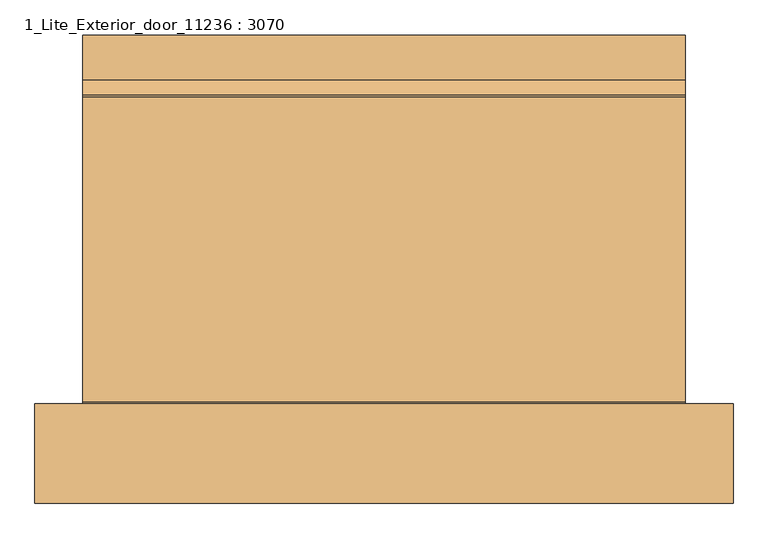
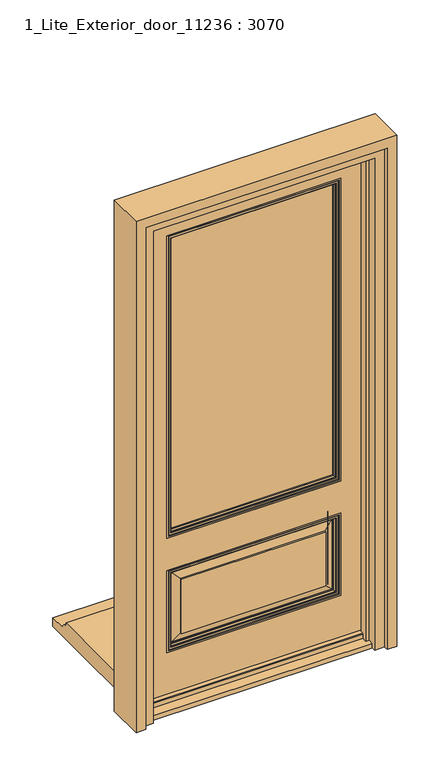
"""IFC4 building model written with IfcOpenShell, lengths in millimetres: door geometry, 1_Lite_Exterior_door_11236 : 3070."""

from ifc_helpers import new_model, si_unit, point, frame, frame_2d, origin, place, context, project, spatial, polyline, circle_curve, ellipse_curve, trimmed, segment, composite_curve, outline, extrude, faceted_brep, source, transform, mapped, element, save
from ifc_brep_helpers import plane_surface, cylinder_surface, advanced_brep


def door_1_lite_exterior_door_11236_3070_60b90e85(model_context):
    return source(origin(), model_context, "Body", "SolidModel", [
        advanced_brep(
        [(355.6, 12.7, 723.9), (355.6, 76.2, 723.9), (355.6, 76.2, 2032.0), (355.6, 12.7, 2032.0), (349.25, 17.74112, 730.25), (349.25, 12.7, 730.25), (349.25, 12.7, 2025.65), (349.25, 17.74112, 2025.65), (346.9560106, 15.4471305, 732.5439894), (346.9560106, 15.4471305, 2023.3560106), (338.7694125, 18.2331323, 740.7305875), (338.7694125, 15.4471305, 740.7305875), (338.7694125, 15.4471305, 2015.1694125), (338.7694125, 18.2331323, 2015.1694125), (335.932591, 18.9956227, 743.567409), (337.7298548, 18.2331323, 741.7701452), (337.7298548, 18.2331323, 2014.1298548), (335.932591, 18.9956227, 2012.332591), (332.9205864, 25.9688031, 746.5794136), (332.9205864, 25.9688031, 2009.3205864), (331.1191455, 30.1625, 748.3808545), (331.1191455, 25.9688031, 748.3808545), (331.1191455, 25.9688031, 2007.5191455), (331.1191455, 30.1625, 2007.5191455), (349.25, 58.7375, 730.25), (349.25, 30.1625, 730.25), (349.25, 30.1625, 2025.65), (349.25, 58.7375, 2025.65), (331.3790349, 63.1711196, 748.1209651), (331.3790349, 58.7375, 748.1209651), (331.3790349, 58.7375, 2007.7790349), (331.3790349, 63.1711196, 2007.7790349), (332.2428928, 63.8640585, 747.2571072), (332.2428928, 63.8640585, 2008.6428928), (334.1792523, 68.8820693, 745.3207477), (333.1653174, 63.8640585, 746.3346826), (333.1653174, 63.8640585, 2009.5653174), (334.1792523, 68.8820693, 2010.5792523), (337.7518172, 72.169021, 741.7481828), (337.7518172, 72.169021, 2014.1518172), (338.7401292, 76.2, 740.7598708), (338.7401292, 72.169021, 740.7598708), (338.7401292, 72.169021, 2015.1401292), (338.7401292, 76.2, 2015.1401292), (-355.6, 76.2, 2032.0), (-355.6, 12.7, 2032.0), (-349.25, 12.7, 2025.65), (-349.25, 17.74112, 2025.65), (-346.9560106, 15.4471305, 2023.3560106), (-338.7694125, 15.4471305, 2015.1694125), (-338.7694125, 18.2331323, 2015.1694125), (-337.7298548, 18.2331323, 2014.1298548), (-335.932591, 18.9956227, 2012.332591), (-332.9205864, 25.9688031, 2009.3205864), (-331.1191455, 25.9688031, 2007.5191455), (-331.1191455, 30.1625, 2007.5191455), (-349.25, 30.1625, 2025.65), (-349.25, 58.7375, 2025.65), (-331.3790349, 58.7375, 2007.7790349), (-331.3790349, 63.1711196, 2007.7790349), (-332.2428928, 63.8640585, 2008.6428928), (-333.1653174, 63.8640585, 2009.5653174), (-334.1792523, 68.8820693, 2010.5792523), (-337.7518172, 72.169021, 2014.1518172), (-338.7401292, 72.169021, 2015.1401292), (-338.7401292, 76.2, 2015.1401292), (-355.6, 76.2, 723.9), (-355.6, 12.7, 723.9), (-349.25, 12.7, 730.25), (-349.25, 17.74112, 730.25), (-346.9560106, 15.4471305, 732.5439894), (-338.7694125, 15.4471305, 740.7305875), (-338.7694125, 18.2331323, 740.7305875), (-337.7298548, 18.2331323, 741.7701452), (-335.932591, 18.9956227, 743.567409), (-332.9205864, 25.9688031, 746.5794136), (-331.1191455, 25.9688031, 748.3808545), (-331.1191455, 30.1625, 748.3808545), (-349.25, 30.1625, 730.25), (-349.25, 58.7375, 730.25), (-331.3790349, 58.7375, 748.1209651), (-331.3790349, 63.1711196, 748.1209651), (-332.2428928, 63.8640585, 747.2571072), (-333.1653174, 63.8640585, 746.3346826), (-334.1792523, 68.8820693, 745.3207477), (-337.7518172, 72.169021, 741.7481828), (-338.7401292, 72.169021, 740.7598708), (-338.7401292, 76.2, 740.7598708)],
        [
            (0, 1),
            (1, 2),
            (2, 3),
            (3, 0),
            (4, 5),
            (5, 6),
            (6, 7),
            (7, 4),
            (8, 4),
            (7, 9),
            (9, 8),
            (10, 11),
            (11, 12),
            (12, 13),
            (13, 10),
            (14, 15, ellipse_curve(frame((337.7264752, 20.724574, 741.7735248), z_axis=(0.7071067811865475, 0.0, 0.7071067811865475), x_axis=(0.7071067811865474, 0.0, -0.7071067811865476)), 3.5234339, 2.491444)),
            (15, 16),
            (16, 17, ellipse_curve(frame((337.7264752, 20.724574, 2014.1264752), z_axis=(0.7071067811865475, 0.0, -0.7071067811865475), x_axis=(-0.7071067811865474, 0.0, -0.7071067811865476)), 3.5234339, 2.491444)),
            (17, 14),
            (18, 14, ellipse_curve(frame((343.4741522, 26.3902292, 736.0258478), z_axis=(0.7071067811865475, 0.0, 0.7071067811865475), x_axis=(0.7071067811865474, 0.0, -0.7071067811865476)), 14.9368906, 10.5619766)),
            (17, 19, ellipse_curve(frame((343.4741522, 26.3902292, 2019.8741522), z_axis=(0.7071067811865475, 0.0, -0.7071067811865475), x_axis=(-0.7071067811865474, 0.0, -0.7071067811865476)), 14.9368906, 10.5619766)),
            (19, 18),
            (20, 21),
            (21, 22),
            (22, 23),
            (23, 20),
            (24, 25),
            (25, 26),
            (26, 27),
            (27, 24),
            (28, 29),
            (29, 30),
            (30, 31),
            (31, 28),
            (32, 28, ellipse_curve(frame((332.2149829, 63.0139154, 747.2850171), z_axis=(0.7071067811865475, 0.0, 0.7071067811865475), x_axis=(0.7071067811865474, 0.0, -0.7071067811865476)), 1.2029316, 0.8506011)),
            (31, 33, ellipse_curve(frame((332.2149829, 63.0139154, 2008.6149829), z_axis=(0.7071067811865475, 0.0, -0.7071067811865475), x_axis=(-0.7071067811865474, 0.0, -0.7071067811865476)), 1.2029316, 0.8506011)),
            (33, 32),
            (34, 35, ellipse_curve(frame((345.7149258, 63.9397383, 733.7850742), z_axis=(0.7071067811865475, 0.0, 0.7071067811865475), x_axis=(0.7071067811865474, 0.0, -0.7071067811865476)), 17.7481492, 12.5498367)),
            (35, 36),
            (36, 37, ellipse_curve(frame((345.7149258, 63.9397383, 2022.1149258), z_axis=(0.7071067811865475, 0.0, -0.7071067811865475), x_axis=(-0.7071067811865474, 0.0, -0.7071067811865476)), 17.7481492, 12.5498367)),
            (37, 34),
            (38, 34, ellipse_curve(frame((339.7868204, 66.3722163, 739.7131796), z_axis=(0.7071067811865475, 0.0, 0.7071067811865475), x_axis=(0.7071067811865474, 0.0, -0.7071067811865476)), 8.6884041, 6.1436294)),
            (37, 39, ellipse_curve(frame((339.7868204, 66.3722163, 2016.1868204), z_axis=(0.7071067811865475, 0.0, -0.7071067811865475), x_axis=(-0.7071067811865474, 0.0, -0.7071067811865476)), 8.6884041, 6.1436294)),
            (39, 38),
            (40, 41),
            (41, 42),
            (42, 43),
            (43, 40),
            (2, 44),
            (44, 45),
            (45, 3),
            (6, 46),
            (46, 47),
            (47, 7),
            (47, 48),
            (48, 9),
            (12, 49),
            (49, 50),
            (50, 13),
            (16, 51),
            (51, 52, ellipse_curve(frame((-337.7264752, 20.724574, 2014.1264752), z_axis=(0.7071067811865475, 0.0, 0.7071067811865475), x_axis=(0.7071067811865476, 0.0, -0.7071067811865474)), 3.5234339, 2.491444)),
            (52, 17),
            (52, 53, ellipse_curve(frame((-343.4741522, 26.3902292, 2019.8741522), z_axis=(0.7071067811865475, 0.0, 0.7071067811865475), x_axis=(0.7071067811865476, 0.0, -0.7071067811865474)), 14.9368906, 10.5619766)),
            (53, 19),
            (22, 54),
            (54, 55),
            (55, 23),
            (26, 56),
            (56, 57),
            (57, 27),
            (30, 58),
            (58, 59),
            (59, 31),
            (59, 60, ellipse_curve(frame((-332.2149829, 63.0139154, 2008.6149829), z_axis=(0.7071067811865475, 0.0, 0.7071067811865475), x_axis=(0.7071067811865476, 0.0, -0.7071067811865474)), 1.2029316, 0.8506011)),
            (60, 33),
            (36, 61),
            (61, 62, ellipse_curve(frame((-345.7149258, 63.9397383, 2022.1149258), z_axis=(0.7071067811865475, 0.0, 0.7071067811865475), x_axis=(0.7071067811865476, 0.0, -0.7071067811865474)), 17.7481492, 12.5498367)),
            (62, 37),
            (62, 63, ellipse_curve(frame((-339.7868204, 66.3722163, 2016.1868204), z_axis=(0.7071067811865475, 0.0, 0.7071067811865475), x_axis=(0.7071067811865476, 0.0, -0.7071067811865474)), 8.6884041, 6.1436294)),
            (63, 39),
            (42, 64),
            (64, 65),
            (65, 43),
            (44, 66),
            (66, 67),
            (67, 45),
            (46, 68),
            (68, 69),
            (69, 47),
            (69, 70),
            (70, 48),
            (49, 71),
            (71, 72),
            (72, 50),
            (51, 73),
            (73, 74, ellipse_curve(frame((-337.7264752, 20.724574, 741.7735248), z_axis=(-0.7071067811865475, 0.0, 0.7071067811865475), x_axis=(0.7071067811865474, 0.0, 0.7071067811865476)), 3.5234339, 2.491444)),
            (74, 52),
            (74, 75, ellipse_curve(frame((-343.4741522, 26.3902292, 736.0258478), z_axis=(-0.7071067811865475, 0.0, 0.7071067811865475), x_axis=(0.7071067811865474, 0.0, 0.7071067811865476)), 14.9368906, 10.5619766)),
            (75, 53),
            (54, 76),
            (76, 77),
            (77, 55),
            (56, 78),
            (78, 79),
            (79, 57),
            (58, 80),
            (80, 81),
            (81, 59),
            (81, 82, ellipse_curve(frame((-332.2149829, 63.0139154, 747.2850171), z_axis=(-0.7071067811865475, 0.0, 0.7071067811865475), x_axis=(0.7071067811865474, 0.0, 0.7071067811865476)), 1.2029316, 0.8506011)),
            (82, 60),
            (61, 83),
            (83, 84, ellipse_curve(frame((-345.7149258, 63.9397383, 733.7850742), z_axis=(-0.7071067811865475, 0.0, 0.7071067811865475), x_axis=(0.7071067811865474, 0.0, 0.7071067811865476)), 17.7481492, 12.5498367)),
            (84, 62),
            (84, 85, ellipse_curve(frame((-339.7868204, 66.3722163, 739.7131796), z_axis=(-0.7071067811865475, 0.0, 0.7071067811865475), x_axis=(0.7071067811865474, 0.0, 0.7071067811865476)), 8.6884041, 6.1436294)),
            (85, 63),
            (64, 86),
            (86, 87),
            (87, 65),
            (1, 66),
            (87, 40),
            (0, 67),
            (5, 68),
            (4, 69),
            (8, 70),
            (11, 71),
            (10, 72),
            (15, 73),
            (14, 74),
            (18, 75),
            (21, 76),
            (20, 77),
            (25, 78),
            (24, 79),
            (29, 80),
            (28, 81),
            (32, 82),
            (35, 83),
            (34, 84),
            (38, 85),
            (41, 86),
        ],
        [
            plane_surface(frame((355.6, 76.2, 723.9), z_axis=(1.0, 0.0, 0.0), x_axis=(0.0, 0.0, 1.0))),
            plane_surface(frame((349.25, 12.7, 730.25), z_axis=(-1.0, 0.0, 0.0), x_axis=(0.0, 0.0, 1.0))),
            plane_surface(frame((349.25, 17.74112, 730.25), z_axis=(0.7071067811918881, -0.707106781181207, 0.0), x_axis=(0.0, 0.0, 1.0))),
            plane_surface(frame((338.7694125, 15.4471305, 740.7305875), z_axis=(-1.0, 0.0, 0.0), x_axis=(0.0, 0.0, 1.0))),
            cylinder_surface(frame((337.7264752, 20.724574, 723.9), z_axis=(0.0, 0.0, -1.0), x_axis=(0.0, -1.0, 0.0)), 2.491444),
            cylinder_surface(frame((343.4741522, 26.3902292, 723.9), z_axis=(0.0, 0.0, -1.0), x_axis=(0.0, -1.0, 0.0)), 10.5619766),
            plane_surface(frame((331.1191455, 25.9688031, 748.3808545), z_axis=(-1.0, 0.0, 0.0), x_axis=(0.0, 0.0, 1.0))),
            plane_surface(frame((349.25, 30.1625, 730.25), z_axis=(-1.0, 0.0, 0.0), x_axis=(0.0, 0.0, 1.0))),
            plane_surface(frame((331.3790349, 58.7375, 748.1209651), z_axis=(-1.0, 0.0, 0.0), x_axis=(0.0, 0.0, 1.0))),
            cylinder_surface(frame((332.2149829, 63.0139154, 723.9), z_axis=(0.0, 0.0, -1.0), x_axis=(0.0, -1.0, 0.0)), 0.8506011),
            cylinder_surface(frame((345.7149258, 63.9397383, 723.9), z_axis=(0.0, 0.0, -1.0), x_axis=(0.0, -1.0, 0.0)), 12.5498367),
            cylinder_surface(frame((339.7868204, 66.3722163, 723.9), z_axis=(0.0, 0.0, -1.0), x_axis=(0.0, -1.0, 0.0)), 6.1436294),
            plane_surface(frame((338.7401292, 72.169021, 740.7598708), z_axis=(-1.0, 0.0, 0.0), x_axis=(0.0, 0.0, 1.0))),
            plane_surface(frame((355.6, 76.2, 2032.0), z_axis=(0.0, 0.0, 1.0), x_axis=(-1.0, 0.0, 0.0))),
            plane_surface(frame((349.25, 12.7, 2025.65), z_axis=(0.0, 0.0, -1.0), x_axis=(-1.0, 0.0, 0.0))),
            plane_surface(frame((349.25, 17.74112, 2025.65), z_axis=(0.0, -0.707106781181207, 0.7071067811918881), x_axis=(-1.0, 0.0, 0.0))),
            plane_surface(frame((338.7694125, 15.4471305, 2015.1694125), z_axis=(0.0, 0.0, -1.0), x_axis=(-1.0, 0.0, 0.0))),
            cylinder_surface(frame((355.6, 20.724574, 2014.1264752), z_axis=(1.0, 0.0, 0.0), x_axis=(0.0, -1.0, 0.0)), 2.491444),
            cylinder_surface(frame((355.6, 26.3902292, 2019.8741522), z_axis=(1.0, 0.0, 0.0), x_axis=(0.0, -1.0, 0.0)), 10.5619766),
            plane_surface(frame((331.1191455, 25.9688031, 2007.5191455), z_axis=(0.0, 0.0, -1.0), x_axis=(-1.0, 0.0, 0.0))),
            plane_surface(frame((349.25, 30.1625, 2025.65), z_axis=(0.0, 0.0, -1.0), x_axis=(-1.0, 0.0, 0.0))),
            plane_surface(frame((331.3790349, 58.7375, 2007.7790349), z_axis=(0.0, 0.0, -1.0), x_axis=(-1.0, 0.0, 0.0))),
            cylinder_surface(frame((355.6, 63.0139154, 2008.6149829), z_axis=(1.0, 0.0, 0.0), x_axis=(0.0, -1.0, 0.0)), 0.8506011),
            cylinder_surface(frame((355.6, 63.9397383, 2022.1149258), z_axis=(1.0, 0.0, 0.0), x_axis=(0.0, -1.0, 0.0)), 12.5498367),
            cylinder_surface(frame((355.6, 66.3722163, 2016.1868204), z_axis=(1.0, 0.0, 0.0), x_axis=(0.0, -1.0, 0.0)), 6.1436294),
            plane_surface(frame((338.7401292, 72.169021, 2015.1401292), z_axis=(0.0, 0.0, -1.0), x_axis=(-1.0, 0.0, 0.0))),
            plane_surface(frame((-355.6, 76.2, 2032.0), z_axis=(-1.0, 0.0, 0.0), x_axis=(0.0, 0.0, -1.0))),
            plane_surface(frame((-349.25, 12.7, 2025.65), z_axis=(1.0, 0.0, 0.0), x_axis=(0.0, 0.0, -1.0))),
            plane_surface(frame((-349.25, 17.74112, 2025.65), z_axis=(-0.7071067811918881, -0.707106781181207, 0.0), x_axis=(0.0, 0.0, -1.0))),
            plane_surface(frame((-338.7694125, 15.4471305, 2015.1694125), z_axis=(1.0, 0.0, 0.0), x_axis=(0.0, 0.0, -1.0))),
            cylinder_surface(frame((-337.7264752, 20.724574, 2032.0), z_axis=(0.0, 0.0, 1.0), x_axis=(0.0, -1.0, 0.0)), 2.491444),
            cylinder_surface(frame((-343.4741522, 26.3902292, 2032.0), z_axis=(0.0, 0.0, 1.0), x_axis=(0.0, -1.0, 0.0)), 10.5619766),
            plane_surface(frame((-331.1191455, 25.9688031, 2007.5191455), z_axis=(1.0, 0.0, 0.0), x_axis=(0.0, 0.0, -1.0))),
            plane_surface(frame((-349.25, 30.1625, 2025.65), z_axis=(1.0, 0.0, 0.0), x_axis=(0.0, 0.0, -1.0))),
            plane_surface(frame((-331.3790349, 58.7375, 2007.7790349), z_axis=(1.0, 0.0, 0.0), x_axis=(0.0, 0.0, -1.0))),
            cylinder_surface(frame((-332.2149829, 63.0139154, 2032.0), z_axis=(0.0, 0.0, 1.0), x_axis=(0.0, -1.0, 0.0)), 0.8506011),
            cylinder_surface(frame((-345.7149258, 63.9397383, 2032.0), z_axis=(0.0, 0.0, 1.0), x_axis=(0.0, -1.0, 0.0)), 12.5498367),
            cylinder_surface(frame((-339.7868204, 66.3722163, 2032.0), z_axis=(0.0, 0.0, 1.0), x_axis=(0.0, -1.0, 0.0)), 6.1436294),
            plane_surface(frame((-338.7401292, 72.169021, 2015.1401292), z_axis=(1.0, 0.0, 0.0), x_axis=(0.0, 0.0, -1.0))),
            plane_surface(frame((-338.7401292, 76.2, 740.7598708), z_axis=(0.0, 1.0, 0.0), x_axis=(1.0, 0.0, 0.0))),
            plane_surface(frame((-355.6, 76.2, 723.9), z_axis=(0.0, 0.0, -1.0), x_axis=(1.0, 0.0, 0.0))),
            plane_surface(frame((-355.6, 12.7, 723.9), z_axis=(0.0, -1.0, 0.0), x_axis=(1.0, 0.0, 0.0))),
            plane_surface(frame((-349.25, 12.7, 730.25), z_axis=(0.0, 0.0, 1.0), x_axis=(1.0, 0.0, 0.0))),
            plane_surface(frame((-349.25, 17.74112, 730.25), z_axis=(0.0, -0.707106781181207, -0.7071067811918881), x_axis=(1.0, 0.0, 0.0))),
            plane_surface(frame((-346.9560106, 15.4471305, 732.5439894), z_axis=(0.0, -1.0, 0.0), x_axis=(1.0, 0.0, 0.0))),
            plane_surface(frame((-338.7694125, 15.4471305, 740.7305875), z_axis=(0.0, 0.0, 1.0), x_axis=(1.0, 0.0, 0.0))),
            plane_surface(frame((-338.7694125, 18.2331323, 740.7305875), z_axis=(0.0, -1.0, 0.0), x_axis=(1.0, 0.0, 0.0))),
            cylinder_surface(frame((-355.6, 20.724574, 741.7735248), z_axis=(-1.0, 0.0, 0.0), x_axis=(0.0, -1.0, 0.0)), 2.491444),
            cylinder_surface(frame((-355.6, 26.3902292, 736.0258478), z_axis=(-1.0, 0.0, 0.0), x_axis=(0.0, -1.0, 0.0)), 10.5619766),
            plane_surface(frame((-332.9205864, 25.9688031, 746.5794136), z_axis=(0.0, -1.0, 0.0), x_axis=(1.0, 0.0, 0.0))),
            plane_surface(frame((-331.1191455, 25.9688031, 748.3808545), z_axis=(0.0, 0.0, 1.0), x_axis=(1.0, 0.0, 0.0))),
            plane_surface(frame((-331.1191455, 30.1625, 748.3808545), z_axis=(0.0, 1.0, 0.0), x_axis=(1.0, 0.0, 0.0))),
            plane_surface(frame((-349.25, 30.1625, 730.25), z_axis=(0.0, 0.0, 1.0), x_axis=(1.0, 0.0, 0.0))),
            plane_surface(frame((-349.25, 58.7375, 730.25), z_axis=(0.0, -1.0, 0.0), x_axis=(1.0, 0.0, 0.0))),
            plane_surface(frame((-331.3790349, 58.7375, 748.1209651), z_axis=(0.0, 0.0, 1.0), x_axis=(1.0, 0.0, 0.0))),
            cylinder_surface(frame((-355.6, 63.0139154, 747.2850171), z_axis=(-1.0, 0.0, 0.0), x_axis=(0.0, -1.0, 0.0)), 0.8506011),
            plane_surface(frame((-332.2428928, 63.8640585, 747.2571072), z_axis=(0.0, 1.0, 0.0), x_axis=(1.0, 0.0, 0.0))),
            cylinder_surface(frame((-355.6, 63.9397383, 733.7850742), z_axis=(-1.0, 0.0, 0.0), x_axis=(0.0, -1.0, 0.0)), 12.5498367),
            cylinder_surface(frame((-355.6, 66.3722163, 739.7131796), z_axis=(-1.0, 0.0, 0.0), x_axis=(0.0, -1.0, 0.0)), 6.1436294),
            plane_surface(frame((-337.7518172, 72.169021, 741.7481828), z_axis=(0.0, 1.0, 0.0), x_axis=(1.0, 0.0, 0.0))),
            plane_surface(frame((-338.7401292, 72.169021, 740.7598708), z_axis=(0.0, 0.0, 1.0), x_axis=(1.0, 0.0, 0.0))),
        ],
        [
            (0, [[1, 2, 3, 4]]),
            (1, [[5, 6, 7, 8]]),
            (2, [[9, -8, 10, 11]]),
            (3, [[12, 13, 14, 15]]),
            (4, [[16, 17, 18, 19]]),
            (5, [[20, -19, 21, 22]]),
            (6, [[23, 24, 25, 26]]),
            (7, [[27, 28, 29, 30]]),
            (8, [[31, 32, 33, 34]]),
            (9, [[35, -34, 36, 37]]),
            (10, [[38, 39, 40, 41]]),
            (11, [[42, -41, 43, 44]]),
            (12, [[45, 46, 47, 48]]),
            (13, [[-3, 49, 50, 51]]),
            (14, [[-7, 52, 53, 54]]),
            (15, [[-10, -54, 55, 56]]),
            (16, [[-14, 57, 58, 59]]),
            (17, [[-18, 60, 61, 62]]),
            (18, [[-21, -62, 63, 64]]),
            (19, [[-25, 65, 66, 67]]),
            (20, [[-29, 68, 69, 70]]),
            (21, [[-33, 71, 72, 73]]),
            (22, [[-36, -73, 74, 75]]),
            (23, [[-40, 76, 77, 78]]),
            (24, [[-43, -78, 79, 80]]),
            (25, [[-47, 81, 82, 83]]),
            (26, [[-50, 84, 85, 86]]),
            (27, [[-53, 87, 88, 89]]),
            (28, [[-55, -89, 90, 91]]),
            (29, [[-58, 92, 93, 94]]),
            (30, [[-61, 95, 96, 97]]),
            (31, [[-63, -97, 98, 99]]),
            (32, [[-66, 100, 101, 102]]),
            (33, [[-69, 103, 104, 105]]),
            (34, [[-72, 106, 107, 108]]),
            (35, [[-74, -108, 109, 110]]),
            (36, [[-77, 111, 112, 113]]),
            (37, [[-79, -113, 114, 115]]),
            (38, [[-82, 116, 117, 118]]),
            (39, [[119, -84, -49, -2], [-83, -118, 120, -48]]),
            (40, [[-85, -119, -1, 121]]),
            (41, [[-51, -86, -121, -4], [122, -87, -52, -6]]),
            (42, [[-88, -122, -5, 123]]),
            (43, [[-90, -123, -9, 124]]),
            (44, [[-56, -91, -124, -11], [125, -92, -57, -13]]),
            (45, [[-93, -125, -12, 126]]),
            (46, [[-59, -94, -126, -15], [127, -95, -60, -17]]),
            (47, [[-96, -127, -16, 128]]),
            (48, [[-98, -128, -20, 129]]),
            (49, [[-64, -99, -129, -22], [130, -100, -65, -24]]),
            (50, [[-101, -130, -23, 131]]),
            (51, [[132, -103, -68, -28], [-67, -102, -131, -26]]),
            (52, [[-104, -132, -27, 133]]),
            (53, [[-70, -105, -133, -30], [134, -106, -71, -32]]),
            (54, [[-107, -134, -31, 135]]),
            (55, [[-109, -135, -35, 136]]),
            (56, [[137, -111, -76, -39], [-75, -110, -136, -37]]),
            (57, [[-112, -137, -38, 138]]),
            (58, [[-114, -138, -42, 139]]),
            (59, [[140, -116, -81, -46], [-80, -115, -139, -44]]),
            (60, [[-117, -140, -45, -120]]),
        ],
    ),
        advanced_brep(
        [(-295.275, 21.7305567, 288.925), (-295.275, 68.5309484, 288.925), (-295.275, 68.5309484, 523.875), (-295.275, 21.7305567, 523.875), (-328.2530406, 30.8447038, 255.9469594), (-328.2530406, 30.8447038, 556.8530406), (-331.1191455, 26.6510069, 253.0808545), (-331.1191455, 30.8447038, 253.0808545), (-331.1191455, 30.8447038, 559.7191455), (-331.1191455, 26.6510069, 559.7191455), (-335.932591, 19.6778265, 248.267409), (-332.9205864, 26.6510069, 251.2794136), (-332.9205864, 26.6510069, 561.5205864), (-335.932591, 19.6778265, 564.532591), (-337.7298547, 18.9153362, 246.4701453), (-337.7298547, 18.9153362, 566.3298547), (-338.7694125, 16.1293344, 245.4305875), (-338.7694125, 18.9153362, 245.4305875), (-338.7694125, 18.9153362, 567.3694125), (-338.7694125, 16.1293344, 567.3694125), (-349.25, 18.4233238, 234.95), (-346.9560106, 16.1293344, 237.2439894), (-346.9560106, 16.1293344, 575.5560106), (-349.25, 18.4233238, 577.85), (-349.25, 12.7, 234.95), (-349.25, 12.7, 577.85), (-355.6, 76.2, 228.6), (-355.6, 12.7, 228.6), (-355.6, 12.7, 584.2), (-355.6, 76.2, 584.2), (-338.7401292, 72.8512248, 245.4598708), (-338.7401292, 76.2, 245.4598708), (-338.7401292, 76.2, 567.3401292), (-338.7401292, 72.8512248, 567.3401292), (-334.1792523, 69.5642731, 250.0207477), (-337.7518172, 72.8512248, 246.4481828), (-337.7518172, 72.8512248, 566.3518172), (-334.1792523, 69.5642731, 562.7792523), (-333.1653174, 64.5462623, 251.0346826), (-333.1653174, 64.5462623, 561.7653174), (-331.3790349, 63.8533234, 252.8209651), (-332.2428928, 64.5462623, 251.9571072), (-332.2428928, 64.5462623, 560.8428928), (-331.3790349, 63.8533234, 559.9790349), (-331.3790349, 59.4197038, 252.8209651), (-331.3790349, 59.4197038, 559.9790349), (-328.7179133, 59.4197038, 255.4820867), (-328.7179133, 59.4197038, 557.3179133), (295.275, 68.5309484, 523.875), (295.275, 21.7305567, 523.875), (328.2530406, 30.8447038, 556.8530406), (331.1191455, 30.8447038, 559.7191455), (331.1191455, 26.6510069, 559.7191455), (332.9205864, 26.6510069, 561.5205864), (335.932591, 19.6778265, 564.532591), (337.7298547, 18.9153362, 566.3298547), (338.7694125, 18.9153362, 567.3694125), (338.7694125, 16.1293344, 567.3694125), (346.9560106, 16.1293344, 575.5560106), (349.25, 18.4233238, 577.85), (349.25, 12.7, 577.85), (355.6, 12.7, 584.2), (355.6, 76.2, 584.2), (338.7401292, 76.2, 567.3401292), (338.7401292, 72.8512248, 567.3401292), (337.7518172, 72.8512248, 566.3518172), (334.1792523, 69.5642731, 562.7792523), (333.1653174, 64.5462623, 561.7653174), (332.2428928, 64.5462623, 560.8428928), (331.3790349, 63.8533234, 559.9790349), (331.3790349, 59.4197038, 559.9790349), (328.7179133, 59.4197038, 557.3179133), (295.275, 68.5309484, 288.925), (295.275, 21.7305567, 288.925), (328.2530406, 30.8447038, 255.9469594), (331.1191455, 30.8447038, 253.0808545), (331.1191455, 26.6510069, 253.0808545), (332.9205864, 26.6510069, 251.2794136), (335.932591, 19.6778265, 248.267409), (337.7298547, 18.9153362, 246.4701453), (338.7694125, 18.9153362, 245.4305875), (338.7694125, 16.1293344, 245.4305875), (346.9560106, 16.1293344, 237.2439894), (349.25, 18.4233238, 234.95), (349.25, 12.7, 234.95), (355.6, 12.7, 228.6), (355.6, 76.2, 228.6), (338.7401292, 76.2, 245.4598708), (338.7401292, 72.8512248, 245.4598708), (337.7518172, 72.8512248, 246.4481828), (334.1792523, 69.5642731, 250.0207477), (333.1653174, 64.5462623, 251.0346826), (332.2428928, 64.5462623, 251.9571072), (331.3790349, 63.8533234, 252.8209651), (331.3790349, 59.4197038, 252.8209651), (328.7179133, 59.4197038, 255.4820867)],
        [
            (0, 1),
            (1, 2),
            (2, 3),
            (3, 0),
            (4, 0),
            (3, 5),
            (5, 4),
            (6, 7),
            (7, 8),
            (8, 9),
            (9, 6),
            (10, 11, ellipse_curve(frame((-343.4741522, 27.072433, 240.7258478), z_axis=(-0.7071067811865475, 0.0, 0.7071067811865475), x_axis=(-0.7071067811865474, 0.0, -0.7071067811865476)), 14.9368906, 10.5619766)),
            (11, 12),
            (12, 13, ellipse_curve(frame((-343.4741522, 27.072433, 572.0741522), z_axis=(-0.7071067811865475, 0.0, -0.7071067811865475), x_axis=(0.7071067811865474, 0.0, -0.7071067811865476)), 14.9368906, 10.5619766)),
            (13, 10),
            (14, 10, ellipse_curve(frame((-337.7264752, 21.4067779, 246.4735248), z_axis=(-0.7071067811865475, 0.0, 0.7071067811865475), x_axis=(-0.7071067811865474, 0.0, -0.7071067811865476)), 3.5234339, 2.491444)),
            (13, 15, ellipse_curve(frame((-337.7264752, 21.4067779, 566.3264752), z_axis=(-0.7071067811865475, 0.0, -0.7071067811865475), x_axis=(0.7071067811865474, 0.0, -0.7071067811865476)), 3.5234339, 2.491444)),
            (15, 14),
            (16, 17),
            (17, 18),
            (18, 19),
            (19, 16),
            (20, 21),
            (21, 22),
            (22, 23),
            (23, 20),
            (24, 20),
            (23, 25),
            (25, 24),
            (26, 27),
            (27, 28),
            (28, 29),
            (29, 26),
            (30, 31),
            (31, 32),
            (32, 33),
            (33, 30),
            (34, 35, ellipse_curve(frame((-339.7868204, 67.0544201, 244.4131796), z_axis=(-0.7071067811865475, 0.0, 0.7071067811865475), x_axis=(-0.7071067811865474, 0.0, -0.7071067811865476)), 8.6884041, 6.1436294)),
            (35, 36),
            (36, 37, ellipse_curve(frame((-339.7868204, 67.0544201, 568.3868204), z_axis=(-0.7071067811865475, 0.0, -0.7071067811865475), x_axis=(0.7071067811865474, 0.0, -0.7071067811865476)), 8.6884041, 6.1436294)),
            (37, 34),
            (38, 34, ellipse_curve(frame((-345.7149258, 64.6219421, 238.4850742), z_axis=(-0.7071067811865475, 0.0, 0.7071067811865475), x_axis=(-0.7071067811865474, 0.0, -0.7071067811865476)), 17.7481492, 12.5498367)),
            (37, 39, ellipse_curve(frame((-345.7149258, 64.6219421, 574.3149258), z_axis=(-0.7071067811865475, 0.0, -0.7071067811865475), x_axis=(0.7071067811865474, 0.0, -0.7071067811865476)), 17.7481492, 12.5498367)),
            (39, 38),
            (40, 41, ellipse_curve(frame((-332.2149829, 63.6961192, 251.9850171), z_axis=(-0.7071067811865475, 0.0, 0.7071067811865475), x_axis=(-0.7071067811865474, 0.0, -0.7071067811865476)), 1.2029316, 0.8506011)),
            (41, 42),
            (42, 43, ellipse_curve(frame((-332.2149829, 63.6961192, 560.8149829), z_axis=(-0.7071067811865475, 0.0, -0.7071067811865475), x_axis=(0.7071067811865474, 0.0, -0.7071067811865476)), 1.2029316, 0.8506011)),
            (43, 40),
            (44, 40),
            (43, 45),
            (45, 44),
            (1, 46),
            (46, 47),
            (47, 2),
            (2, 48),
            (48, 49),
            (49, 3),
            (49, 50),
            (50, 5),
            (8, 51),
            (51, 52),
            (52, 9),
            (12, 53),
            (53, 54, ellipse_curve(frame((343.4741522, 27.072433, 572.0741522), z_axis=(-0.7071067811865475, 0.0, 0.7071067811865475), x_axis=(-0.7071067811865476, 0.0, -0.7071067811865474)), 14.9368906, 10.5619766)),
            (54, 13),
            (54, 55, ellipse_curve(frame((337.7264752, 21.4067779, 566.3264752), z_axis=(-0.7071067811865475, 0.0, 0.7071067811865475), x_axis=(-0.7071067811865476, 0.0, -0.7071067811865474)), 3.5234339, 2.491444)),
            (55, 15),
            (18, 56),
            (56, 57),
            (57, 19),
            (22, 58),
            (58, 59),
            (59, 23),
            (59, 60),
            (60, 25),
            (28, 61),
            (61, 62),
            (62, 29),
            (32, 63),
            (63, 64),
            (64, 33),
            (36, 65),
            (65, 66, ellipse_curve(frame((339.7868204, 67.0544201, 568.3868204), z_axis=(-0.7071067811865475, 0.0, 0.7071067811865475), x_axis=(-0.7071067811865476, 0.0, -0.7071067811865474)), 8.6884041, 6.1436294)),
            (66, 37),
            (66, 67, ellipse_curve(frame((345.7149258, 64.6219421, 574.3149258), z_axis=(-0.7071067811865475, 0.0, 0.7071067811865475), x_axis=(-0.7071067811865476, 0.0, -0.7071067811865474)), 17.7481492, 12.5498367)),
            (67, 39),
            (42, 68),
            (68, 69, ellipse_curve(frame((332.2149829, 63.6961192, 560.8149829), z_axis=(-0.7071067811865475, 0.0, 0.7071067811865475), x_axis=(-0.7071067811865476, 0.0, -0.7071067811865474)), 1.2029316, 0.8506011)),
            (69, 43),
            (69, 70),
            (70, 45),
            (47, 71),
            (71, 48),
            (48, 72),
            (72, 73),
            (73, 49),
            (73, 74),
            (74, 50),
            (51, 75),
            (75, 76),
            (76, 52),
            (53, 77),
            (77, 78, ellipse_curve(frame((343.4741522, 27.072433, 240.7258478), z_axis=(0.7071067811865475, 0.0, 0.7071067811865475), x_axis=(-0.7071067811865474, 0.0, 0.7071067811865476)), 14.9368906, 10.5619766)),
            (78, 54),
            (78, 79, ellipse_curve(frame((337.7264752, 21.4067779, 246.4735248), z_axis=(0.7071067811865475, 0.0, 0.7071067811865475), x_axis=(-0.7071067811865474, 0.0, 0.7071067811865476)), 3.5234339, 2.491444)),
            (79, 55),
            (56, 80),
            (80, 81),
            (81, 57),
            (58, 82),
            (82, 83),
            (83, 59),
            (83, 84),
            (84, 60),
            (61, 85),
            (85, 86),
            (86, 62),
            (63, 87),
            (87, 88),
            (88, 64),
            (65, 89),
            (89, 90, ellipse_curve(frame((339.7868204, 67.0544201, 244.4131796), z_axis=(0.7071067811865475, 0.0, 0.7071067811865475), x_axis=(-0.7071067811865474, 0.0, 0.7071067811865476)), 8.6884041, 6.1436294)),
            (90, 66),
            (90, 91, ellipse_curve(frame((345.7149258, 64.6219421, 238.4850742), z_axis=(0.7071067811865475, 0.0, 0.7071067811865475), x_axis=(-0.7071067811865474, 0.0, 0.7071067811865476)), 17.7481492, 12.5498367)),
            (91, 67),
            (68, 92),
            (92, 93, ellipse_curve(frame((332.2149829, 63.6961192, 251.9850171), z_axis=(0.7071067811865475, 0.0, 0.7071067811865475), x_axis=(-0.7071067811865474, 0.0, 0.7071067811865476)), 1.2029316, 0.8506011)),
            (93, 69),
            (93, 94),
            (94, 70),
            (71, 95),
            (95, 72),
            (72, 1),
            (0, 73),
            (4, 74),
            (7, 75),
            (6, 76),
            (11, 77),
            (10, 78),
            (14, 79),
            (17, 80),
            (16, 81),
            (21, 82),
            (20, 83),
            (24, 84),
            (27, 85),
            (26, 86),
            (31, 87),
            (30, 88),
            (35, 89),
            (34, 90),
            (38, 91),
            (41, 92),
            (40, 93),
            (44, 94),
            (46, 95),
        ],
        [
            plane_surface(frame((-295.275, 68.5309484, 288.925), z_axis=(1.0, 0.0, 0.0), x_axis=(0.0, 0.0, 1.0))),
            plane_surface(frame((-295.275, 21.7305567, 288.925), z_axis=(-0.2663840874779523, -0.9638669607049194, 0.0), x_axis=(0.0, 0.0, 1.0))),
            plane_surface(frame((-331.1191455, 30.8447038, 253.0808545), z_axis=(1.0, 0.0, 0.0), x_axis=(0.0, 0.0, 1.0))),
            cylinder_surface(frame((-343.4741522, 27.072433, 228.6), z_axis=(0.0, 0.0, -1.0), x_axis=(-1.0, 0.0, 0.0)), 10.5619766),
            cylinder_surface(frame((-337.7264752, 21.4067779, 228.6), z_axis=(0.0, 0.0, -1.0), x_axis=(-1.0, 0.0, 0.0)), 2.491444),
            plane_surface(frame((-338.7694125, 18.9153362, 245.4305875), z_axis=(1.0, 0.0, 0.0), x_axis=(0.0, 0.0, 1.0))),
            plane_surface(frame((-346.9560106, 16.1293344, 237.2439894), z_axis=(-0.7071067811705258, -0.7071067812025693, 0.0), x_axis=(0.0, 0.0, 1.0))),
            plane_surface(frame((-349.25, 18.4233238, 234.95), z_axis=(1.0, 0.0, 0.0), x_axis=(0.0, 0.0, 1.0))),
            plane_surface(frame((-355.6, 12.7, 228.6), z_axis=(-1.0, 0.0, 0.0), x_axis=(0.0, 0.0, 1.0))),
            plane_surface(frame((-338.7401292, 76.2, 245.4598708), z_axis=(1.0, 0.0, 0.0), x_axis=(0.0, 0.0, 1.0))),
            cylinder_surface(frame((-339.7868204, 67.0544201, 228.6), z_axis=(0.0, 0.0, -1.0), x_axis=(-1.0, 0.0, 0.0)), 6.1436294),
            cylinder_surface(frame((-345.7149258, 64.6219421, 228.6), z_axis=(0.0, 0.0, -1.0), x_axis=(-1.0, 0.0, 0.0)), 12.5498367),
            cylinder_surface(frame((-332.2149829, 63.6961192, 228.6), z_axis=(0.0, 0.0, -1.0), x_axis=(-1.0, 0.0, 0.0)), 0.8506011),
            plane_surface(frame((-331.3790349, 63.8533234, 252.8209651), z_axis=(1.0, 0.0, 0.0), x_axis=(0.0, 0.0, 1.0))),
            plane_surface(frame((-328.7179133, 59.4197038, 255.4820867), z_axis=(-0.2628609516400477, 0.9648337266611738, 0.0), x_axis=(0.0, 0.0, 1.0))),
            plane_surface(frame((-295.275, 68.5309484, 523.875), z_axis=(0.0, 0.0, -1.0), x_axis=(1.0, 0.0, 0.0))),
            plane_surface(frame((-295.275, 21.7305567, 523.875), z_axis=(0.0, -0.9638669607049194, 0.2663840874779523), x_axis=(1.0, 0.0, 0.0))),
            plane_surface(frame((-331.1191455, 30.8447038, 559.7191455), z_axis=(0.0, 0.0, -1.0), x_axis=(1.0, 0.0, 0.0))),
            cylinder_surface(frame((-355.6, 27.072433, 572.0741522), z_axis=(-1.0, 0.0, 0.0), x_axis=(0.0, 0.0, 1.0)), 10.5619766),
            cylinder_surface(frame((-355.6, 21.4067779, 566.3264752), z_axis=(-1.0, 0.0, 0.0), x_axis=(0.0, 0.0, 1.0)), 2.491444),
            plane_surface(frame((-338.7694125, 18.9153362, 567.3694125), z_axis=(0.0, 0.0, -1.0), x_axis=(1.0, 0.0, 0.0))),
            plane_surface(frame((-346.9560106, 16.1293344, 575.5560106), z_axis=(0.0, -0.7071067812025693, 0.7071067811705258), x_axis=(1.0, 0.0, 0.0))),
            plane_surface(frame((-349.25, 18.4233238, 577.85), z_axis=(0.0, 0.0, -1.0), x_axis=(1.0, 0.0, 0.0))),
            plane_surface(frame((-355.6, 12.7, 584.2), z_axis=(0.0, 0.0, 1.0), x_axis=(1.0, 0.0, 0.0))),
            plane_surface(frame((-338.7401292, 76.2, 567.3401292), z_axis=(0.0, 0.0, -1.0), x_axis=(1.0, 0.0, 0.0))),
            cylinder_surface(frame((-355.6, 67.0544201, 568.3868204), z_axis=(-1.0, 0.0, 0.0), x_axis=(0.0, 0.0, 1.0)), 6.1436294),
            cylinder_surface(frame((-355.6, 64.6219421, 574.3149258), z_axis=(-1.0, 0.0, 0.0), x_axis=(0.0, 0.0, 1.0)), 12.5498367),
            cylinder_surface(frame((-355.6, 63.6961192, 560.8149829), z_axis=(-1.0, 0.0, 0.0), x_axis=(0.0, 0.0, 1.0)), 0.8506011),
            plane_surface(frame((-331.3790349, 63.8533234, 559.9790349), z_axis=(0.0, 0.0, -1.0), x_axis=(1.0, 0.0, 0.0))),
            plane_surface(frame((-328.7179133, 59.4197038, 557.3179133), z_axis=(0.0, 0.9648337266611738, 0.2628609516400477), x_axis=(1.0, 0.0, 0.0))),
            plane_surface(frame((295.275, 68.5309484, 523.875), z_axis=(-1.0, 0.0, 0.0), x_axis=(0.0, 0.0, -1.0))),
            plane_surface(frame((295.275, 21.7305567, 523.875), z_axis=(0.2663840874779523, -0.9638669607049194, 0.0), x_axis=(0.0, 0.0, -1.0))),
            plane_surface(frame((331.1191455, 30.8447038, 559.7191455), z_axis=(-1.0, 0.0, 0.0), x_axis=(0.0, 0.0, -1.0))),
            cylinder_surface(frame((343.4741522, 27.072433, 584.2), z_axis=(0.0, 0.0, 1.0), x_axis=(1.0, 0.0, 0.0)), 10.5619766),
            cylinder_surface(frame((337.7264752, 21.4067779, 584.2), z_axis=(0.0, 0.0, 1.0), x_axis=(1.0, 0.0, 0.0)), 2.491444),
            plane_surface(frame((338.7694125, 18.9153362, 567.3694125), z_axis=(-1.0, 0.0, 0.0), x_axis=(0.0, 0.0, -1.0))),
            plane_surface(frame((346.9560106, 16.1293344, 575.5560106), z_axis=(0.7071067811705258, -0.7071067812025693, 0.0), x_axis=(0.0, 0.0, -1.0))),
            plane_surface(frame((349.25, 18.4233238, 577.85), z_axis=(-1.0, 0.0, 0.0), x_axis=(0.0, 0.0, -1.0))),
            plane_surface(frame((355.6, 12.7, 584.2), z_axis=(1.0, 0.0, 0.0), x_axis=(0.0, 0.0, -1.0))),
            plane_surface(frame((338.7401292, 76.2, 567.3401292), z_axis=(-1.0, 0.0, 0.0), x_axis=(0.0, 0.0, -1.0))),
            cylinder_surface(frame((339.7868204, 67.0544201, 584.2), z_axis=(0.0, 0.0, 1.0), x_axis=(1.0, 0.0, 0.0)), 6.1436294),
            cylinder_surface(frame((345.7149258, 64.6219421, 584.2), z_axis=(0.0, 0.0, 1.0), x_axis=(1.0, 0.0, 0.0)), 12.5498367),
            cylinder_surface(frame((332.2149829, 63.6961192, 584.2), z_axis=(0.0, 0.0, 1.0), x_axis=(1.0, 0.0, 0.0)), 0.8506011),
            plane_surface(frame((331.3790349, 63.8533234, 559.9790349), z_axis=(-1.0, 0.0, 0.0), x_axis=(0.0, 0.0, -1.0))),
            plane_surface(frame((328.7179133, 59.4197038, 557.3179133), z_axis=(0.2628609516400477, 0.9648337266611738, 0.0), x_axis=(0.0, 0.0, -1.0))),
            plane_surface(frame((295.275, 68.5309484, 288.925), z_axis=(0.0, 0.0, 1.0), x_axis=(-1.0, 0.0, 0.0))),
            plane_surface(frame((295.275, 21.7305567, 288.925), z_axis=(0.0, -0.9638669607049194, -0.2663840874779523), x_axis=(-1.0, 0.0, 0.0))),
            plane_surface(frame((328.2530406, 30.8447038, 255.9469594), z_axis=(0.0, -1.0, 0.0), x_axis=(-1.0, 0.0, 0.0))),
            plane_surface(frame((331.1191455, 30.8447038, 253.0808545), z_axis=(0.0, 0.0, 1.0), x_axis=(-1.0, 0.0, 0.0))),
            plane_surface(frame((331.1191455, 26.6510069, 253.0808545), z_axis=(0.0, -1.0, 0.0), x_axis=(-1.0, 0.0, 0.0))),
            cylinder_surface(frame((355.6, 27.072433, 240.7258478), z_axis=(1.0, 0.0, 0.0), x_axis=(0.0, 0.0, -1.0)), 10.5619766),
            cylinder_surface(frame((355.6, 21.4067779, 246.4735248), z_axis=(1.0, 0.0, 0.0), x_axis=(0.0, 0.0, -1.0)), 2.491444),
            plane_surface(frame((337.7298547, 18.9153362, 246.4701453), z_axis=(0.0, -1.0, 0.0), x_axis=(-1.0, 0.0, 0.0))),
            plane_surface(frame((338.7694125, 18.9153362, 245.4305875), z_axis=(0.0, 0.0, 1.0), x_axis=(-1.0, 0.0, 0.0))),
            plane_surface(frame((338.7694125, 16.1293344, 245.4305875), z_axis=(0.0, -1.0, 0.0), x_axis=(-1.0, 0.0, 0.0))),
            plane_surface(frame((346.9560106, 16.1293344, 237.2439894), z_axis=(0.0, -0.7071067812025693, -0.7071067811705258), x_axis=(-1.0, 0.0, 0.0))),
            plane_surface(frame((349.25, 18.4233238, 234.95), z_axis=(0.0, 0.0, 1.0), x_axis=(-1.0, 0.0, 0.0))),
            plane_surface(frame((349.25, 12.7, 234.95), z_axis=(0.0, -1.0, 0.0), x_axis=(-1.0, 0.0, 0.0))),
            plane_surface(frame((355.6, 12.7, 228.6), z_axis=(0.0, 0.0, -1.0), x_axis=(-1.0, 0.0, 0.0))),
            plane_surface(frame((355.6, 76.2, 228.6), z_axis=(0.0, 1.0, 0.0), x_axis=(-1.0, 0.0, 0.0))),
            plane_surface(frame((338.7401292, 76.2, 245.4598708), z_axis=(0.0, 0.0, 1.0), x_axis=(-1.0, 0.0, 0.0))),
            plane_surface(frame((338.7401292, 72.8512248, 245.4598708), z_axis=(0.0, 1.0, 0.0), x_axis=(-1.0, 0.0, 0.0))),
            cylinder_surface(frame((355.6, 67.0544201, 244.4131796), z_axis=(1.0, 0.0, 0.0), x_axis=(0.0, 0.0, -1.0)), 6.1436294),
            cylinder_surface(frame((355.6, 64.6219421, 238.4850742), z_axis=(1.0, 0.0, 0.0), x_axis=(0.0, 0.0, -1.0)), 12.5498367),
            plane_surface(frame((333.1653174, 64.5462623, 251.0346826), z_axis=(0.0, 1.0, 0.0), x_axis=(-1.0, 0.0, 0.0))),
            cylinder_surface(frame((355.6, 63.6961192, 251.9850171), z_axis=(1.0, 0.0, 0.0), x_axis=(0.0, 0.0, -1.0)), 0.8506011),
            plane_surface(frame((331.3790349, 63.8533234, 252.8209651), z_axis=(0.0, 0.0, 1.0), x_axis=(-1.0, 0.0, 0.0))),
            plane_surface(frame((331.3790349, 59.4197038, 252.8209651), z_axis=(0.0, 1.0, 0.0), x_axis=(-1.0, 0.0, 0.0))),
            plane_surface(frame((328.7179133, 59.4197038, 255.4820867), z_axis=(0.0, 0.9648337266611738, -0.2628609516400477), x_axis=(-1.0, 0.0, 0.0))),
        ],
        [
            (0, [[1, 2, 3, 4]]),
            (1, [[5, -4, 6, 7]]),
            (2, [[8, 9, 10, 11]]),
            (3, [[12, 13, 14, 15]]),
            (4, [[16, -15, 17, 18]]),
            (5, [[19, 20, 21, 22]]),
            (6, [[23, 24, 25, 26]]),
            (7, [[27, -26, 28, 29]]),
            (8, [[30, 31, 32, 33]]),
            (9, [[34, 35, 36, 37]]),
            (10, [[38, 39, 40, 41]]),
            (11, [[42, -41, 43, 44]]),
            (12, [[45, 46, 47, 48]]),
            (13, [[49, -48, 50, 51]]),
            (14, [[52, 53, 54, -2]]),
            (15, [[-3, 55, 56, 57]]),
            (16, [[-6, -57, 58, 59]]),
            (17, [[-10, 60, 61, 62]]),
            (18, [[-14, 63, 64, 65]]),
            (19, [[-17, -65, 66, 67]]),
            (20, [[-21, 68, 69, 70]]),
            (21, [[-25, 71, 72, 73]]),
            (22, [[-28, -73, 74, 75]]),
            (23, [[-32, 76, 77, 78]]),
            (24, [[-36, 79, 80, 81]]),
            (25, [[-40, 82, 83, 84]]),
            (26, [[-43, -84, 85, 86]]),
            (27, [[-47, 87, 88, 89]]),
            (28, [[-50, -89, 90, 91]]),
            (29, [[-54, 92, 93, -55]]),
            (30, [[-56, 94, 95, 96]]),
            (31, [[-58, -96, 97, 98]]),
            (32, [[-61, 99, 100, 101]]),
            (33, [[-64, 102, 103, 104]]),
            (34, [[-66, -104, 105, 106]]),
            (35, [[-69, 107, 108, 109]]),
            (36, [[-72, 110, 111, 112]]),
            (37, [[-74, -112, 113, 114]]),
            (38, [[-77, 115, 116, 117]]),
            (39, [[-80, 118, 119, 120]]),
            (40, [[-83, 121, 122, 123]]),
            (41, [[-85, -123, 124, 125]]),
            (42, [[-88, 126, 127, 128]]),
            (43, [[-90, -128, 129, 130]]),
            (44, [[-93, 131, 132, -94]]),
            (45, [[-95, 133, -1, 134]]),
            (46, [[-97, -134, -5, 135]]),
            (47, [[136, -99, -60, -9], [-59, -98, -135, -7]]),
            (48, [[-100, -136, -8, 137]]),
            (49, [[138, -102, -63, -13], [-62, -101, -137, -11]]),
            (50, [[-103, -138, -12, 139]]),
            (51, [[-105, -139, -16, 140]]),
            (52, [[141, -107, -68, -20], [-67, -106, -140, -18]]),
            (53, [[-108, -141, -19, 142]]),
            (54, [[143, -110, -71, -24], [-70, -109, -142, -22]]),
            (55, [[-111, -143, -23, 144]]),
            (56, [[-113, -144, -27, 145]]),
            (57, [[146, -115, -76, -31], [-75, -114, -145, -29]]),
            (58, [[-116, -146, -30, 147]]),
            (59, [[-78, -117, -147, -33], [148, -118, -79, -35]]),
            (60, [[-119, -148, -34, 149]]),
            (61, [[-81, -120, -149, -37], [150, -121, -82, -39]]),
            (62, [[-122, -150, -38, 151]]),
            (63, [[-124, -151, -42, 152]]),
            (64, [[-86, -125, -152, -44], [153, -126, -87, -46]]),
            (65, [[-127, -153, -45, 154]]),
            (66, [[-129, -154, -49, 155]]),
            (67, [[-91, -130, -155, -51], [156, -131, -92, -53]]),
            (68, [[-132, -156, -52, -133]]),
        ],
    ),
        extrude(outline(polyline([(295.275, 74.6125), (295.275, 14.2875), (-295.275, 14.2875), (-295.275, 74.6125), (295.275, 74.6125)])), frame((0.0, 0.0, 288.925), z_axis=(0.0, 0.0, 1.0), x_axis=(1.0, 0.0, 0.0)), (0.0, 0.0, 1.0), 234.95),
        extrude(outline(polyline([(349.25, 58.7375), (349.25, 30.1625), (-349.25, 30.1625), (-349.25, 58.7375), (349.25, 58.7375)])), frame((0.0, 0.0, 730.25), z_axis=(0.0, 0.0, 1.0), x_axis=(1.0, 0.0, 0.0)), (0.0, 0.0, 1.0), 1295.4),
        extrude(outline(polyline([(50.8, -457.2), (50.8, 457.2), (2133.6, 457.2), (2133.6, -457.2), (50.8, -457.2)]), holes=[polyline([(723.9, 355.6), (723.9, -355.6), (2032.0, -355.6), (2032.0, 355.6), (723.9, 355.6)]), polyline([(584.2, -355.6), (584.2, 355.6), (228.6, 355.6), (228.6, -355.6), (584.2, -355.6)])]), frame((0.0, 12.7, 0.0), z_axis=(0.0, 1.0, 0.0), x_axis=(0.0, 0.0, 1.0)), (0.0, 0.0, 1.0), 63.5),
        faceted_brep([(460.375, 76.2, 0.0), (533.4, 76.2, 0.0), (533.4, -76.2, 0.0), (492.8693224, -76.2, 0.0), (492.8693224, -57.6840326, 0.0), (452.5110086, -57.6840326, 0.0), (452.5110086, -20.1932062, 0.0), (437.4374202, -20.1932062, 0.0), (437.4374202, 9.525, 0.0), (460.375, 9.525, 0.0), (460.375, 76.2, 2136.775), (-460.375, 76.2, 2136.775), (-460.375, 76.2, 0.0), (-533.4, 76.2, 0.0), (-533.4, 76.2, 2209.8), (533.4, 76.2, 2209.8), (533.4, -76.2, 2209.8), (-533.4, -76.2, 2209.8), (-533.4, -76.2, 0.0), (-492.8693224, -76.2, 0.0), (-492.8693224, -76.2, 2169.2693224), (492.8693224, -76.2, 2169.2693224), (492.8693224, -57.6840326, 2169.2693224), (-492.8693224, -57.6840326, 2169.2693224), (-492.8693224, -57.6840326, 0.0), (-452.5110086, -57.6840326, 0.0), (-452.5110086, -57.6840326, 2128.9110086), (452.5110086, -57.6840326, 2128.9110086), (452.5110086, -20.1932062, 2128.9110086), (-452.5110086, -20.1932062, 2128.9110086), (-452.5110086, -20.1932062, 0.0), (-437.4374202, -20.1932062, 0.0), (-437.4374202, -20.1932062, 2113.8374202), (437.4374202, -20.1932062, 2113.8374202), (437.4374202, 9.525, 2113.8374202), (-437.4374202, 9.525, 2113.8374202), (-437.4374202, 9.525, 0.0), (-460.375, 9.525, 0.0), (-460.375, 9.525, 2136.775), (460.375, 9.525, 2136.775)], [[[0, 1, 2, 3, 4, 5, 6, 7, 8, 9]], [[1, 0, 10, 11, 12, 13, 14, 15]], [[2, 1, 15, 16]], [[3, 2, 16, 17, 18, 19, 20, 21]], [[4, 3, 21, 22]], [[5, 4, 22, 23, 24, 25, 26, 27]], [[6, 5, 27, 28]], [[7, 6, 28, 29, 30, 31, 32, 33]], [[8, 7, 33, 34]], [[9, 8, 34, 35, 36, 37, 38, 39]], [[0, 9, 39, 10]], [[15, 14, 17, 16]], [[21, 20, 23, 22]], [[27, 26, 29, 28]], [[33, 32, 35, 34]], [[11, 10, 39, 38]], [[13, 12, 37, 36, 31, 30, 25, 24, 19, 18]], [[14, 13, 18, 17]], [[20, 19, 24, 23]], [[26, 25, 30, 29]], [[32, 31, 36, 35]], [[12, 11, 38, 37]]]),
        extrude(outline(composite_curve([segment(polyline([(639.7, 37.2065487), (639.7, 0.0), (-40.4016383, 0.0), (-40.4016383, 18.9119321), (-2.2967197, 22.5543691), (-2.2967197, 40.8386818)]), True, "CONTINUOUS"), segment(trimmed(circle_curve(frame_2d((1.2452574, 40.2409807)), 3.5920535), [point((-2.2967197, 40.8386818))], [point((0.7670476, 43.8010598))], False, "CARTESIAN"), True, "CONTINUOUS"), segment(polyline([(0.7670476, 43.8010598), (79.375, 47.625), (79.375, 72.6932619), (544.9930567, 72.6932619), (544.9930567, 58.906612), (547.9982573, 58.906612)]), True, "CONTINUOUS"), segment(trimmed(circle_curve(frame_2d((544.8691573, 32.0983068)), 26.9903037), [point((547.9982573, 58.906612))], [point((570.539092, 40.4368287))], False, "CARTESIAN"), True, "CONTINUOUS"), segment(polyline([(570.539092, 40.4368287), (570.539092, 37.2065487), (639.7, 37.2065487)]), True, "CONTINUOUS")], self_intersect=False)), frame((-460.375, 0.0, 0.0), z_axis=(1.0, 0.0, 0.0), x_axis=(0.0, 1.0, 0.0)), (0.0, 0.0, 1.0), 920.75),
    ])


if __name__ == "__main__":
    model = new_model("IFC4")
    model_context = context("Model", 3, world=origin())
    ifc_project = project(units=[si_unit("LENGTHUNIT", "METRE", prefix="MILLI")], contexts=[model_context])
    site = spatial("IfcSite", under=ifc_project)
    building = spatial("IfcBuilding", under=site)
    placement = place(None, origin())
    door_1_lite_exterior_door_11236_3070_shape = door_1_lite_exterior_door_11236_3070_60b90e85(model_context)
    element("IfcDoor", 1, ObjectType="1_Lite_Exterior_door_11236 : 3070", at=placement, inside=building, context=model_context, shape_type="MappedRepresentation", body=[
        mapped(door_1_lite_exterior_door_11236_3070_shape, transform((0.0, 0.0, 0.0), x_axis=(1.0, 0.0, 0.0), y_axis=(0.0, 1.0, 0.0), z_axis=(0.0, 0.0, 1.0))),
    ])
    save(model, "model.ifc")
